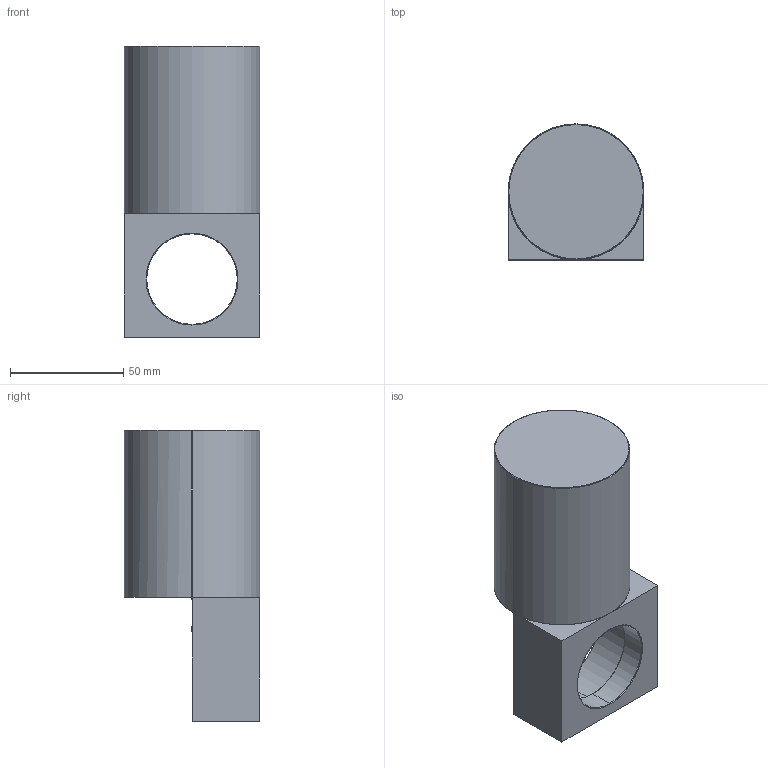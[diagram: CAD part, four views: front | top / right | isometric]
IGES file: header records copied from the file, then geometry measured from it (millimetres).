
Start section: SolidWorks IGES file using analytic representation for surfaces
Global section: file name: R:\Inventor\Kundmodeller Solidworks\Fästen\Swivel bracket BE21 041J004320.IGS; native system: SolidWorks 2008; preprocessor: SolidWorks 2008; author: Johan; date: 091015.081603; units: millimetre
Bounding box: 60 x 60 x 129 mm (x, y, z)
Surface area: 31790.5 mm2 (no closed solid volume)
Topology: 0 solids, 0 shells, 29 faces, 517 edges, 517 vertices
Faces by surface type: revolution 15, bspline 14
